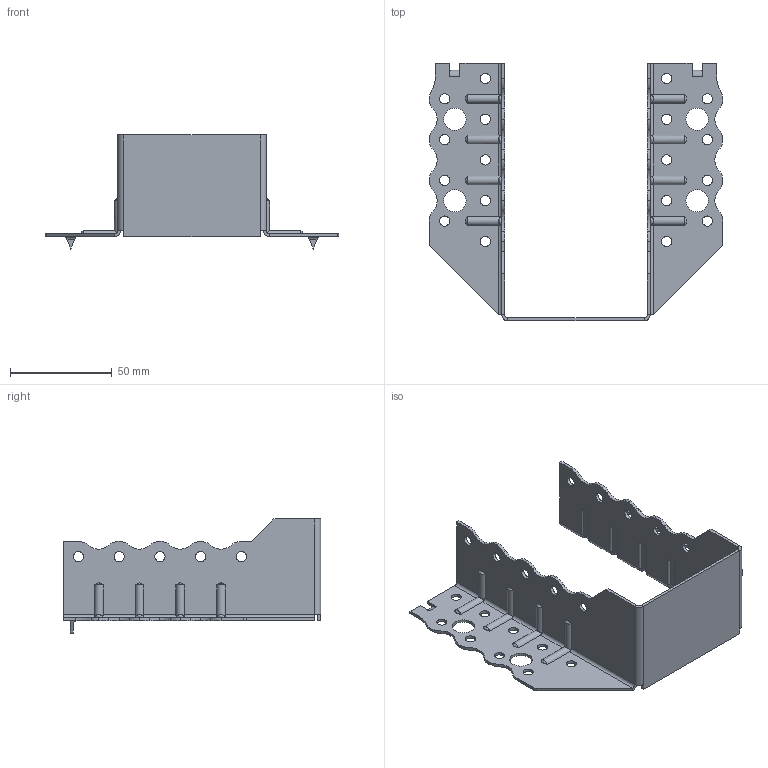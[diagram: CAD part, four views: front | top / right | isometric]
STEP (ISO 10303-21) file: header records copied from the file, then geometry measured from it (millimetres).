
FILE_DESCRIPTION (( 'STEP AP203' ), '1' );
FILE_NAME ('30611TOPK.STEP', '2021-04-08T14:27:46', ( '' ), ( '' ), 'SwSTEP 2.0', 'SolidWorks 2013', '' );
FILE_SCHEMA (( 'CONFIG_CONTROL_DESIGN' ));
Length unit declared in the file: millimetre
Products named in the file (1): 30611TOPK
Bounding box: 144 x 126.5 x 56 mm (x, y, z)
Volume: 29651.6 mm3; surface area: 42400.7 mm2
Topology: 1 solids, 1 shells, 357 faces, 957 edges, 602 vertices
Faces by surface type: cylinder 219, plane 106, torus 16, bspline 16
Entity records: 13124 total; most frequent: CARTESIAN_POINT 4079, ORIENTED_EDGE 1914, DIRECTION 1851, EDGE_CURVE 957, AXIS2_PLACEMENT_3D 672, VERTEX_POINT 602, LINE 507, VECTOR 507
